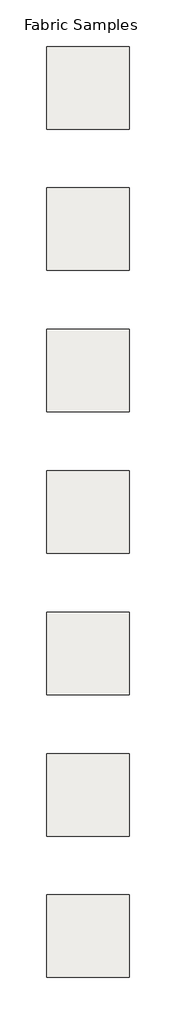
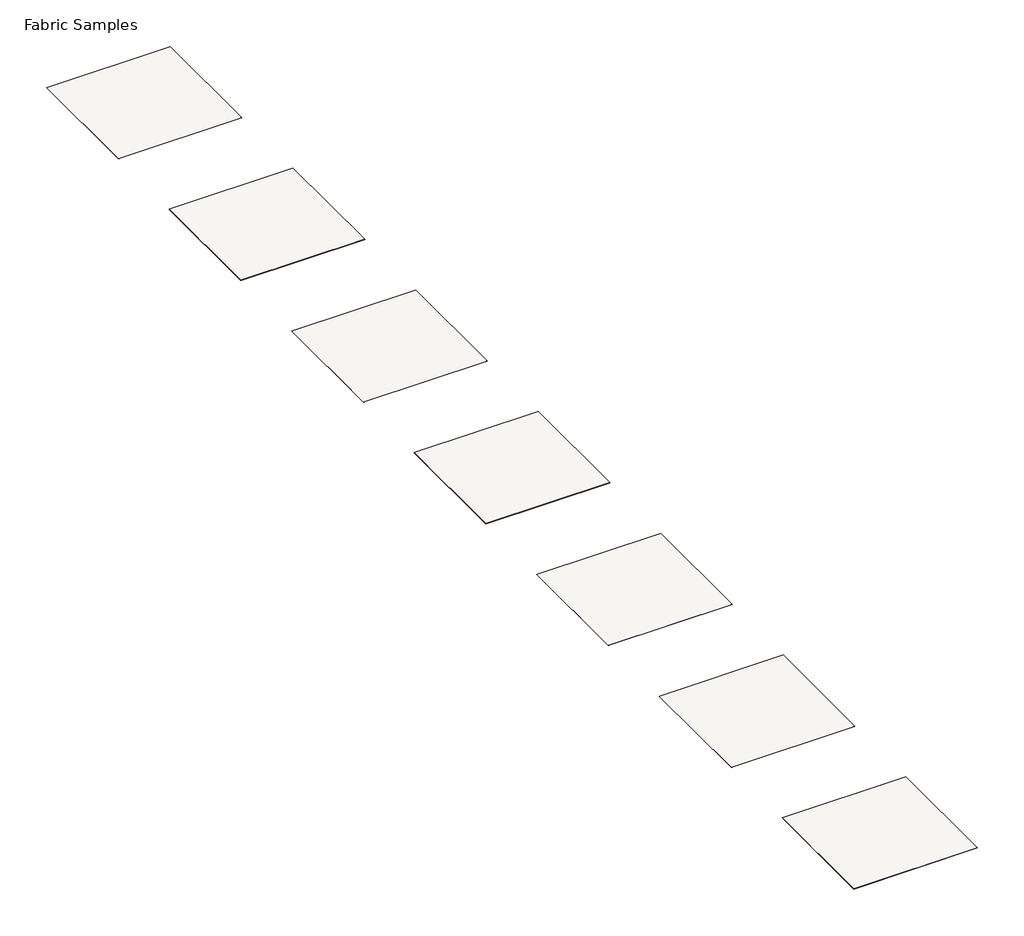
# One storey: 7 coverings.
"""IFC4 building model written with IfcOpenShell, lengths in millimetres."""

from ifc_helpers import new_model, si_unit, frame, origin, place, context, project, spatial, polyline, outline, extrude, element, save

model = new_model("IFC4")

# Units and contexts
model_context = context("Model", 3, world=origin())
ifc_project = project(units=[si_unit("LENGTHUNIT", "METRE", prefix="MILLI")], contexts=[model_context])

# Site, building, storey
site = spatial("IfcSite", under=ifc_project)
building = spatial("IfcBuilding", under=site)
storey = spatial("IfcBuildingStorey", under=building, Name="Fabric Samples", Elevation=0.0)

# Coverings
placement = place(None, origin())
element("IfcCovering", 1, ObjectType="CamiraFabrics_TxtlRllCvrngs_Kork_Aroma_WIN01", at=placement, inside=storey, context=model_context, shape_type="SweptSolid", body=[
    extrude(outline(polyline([(515.5073044, 1029.1514654), (515.5073044, -370.8485346), (-884.4926956, -370.8485346), (-884.4926956, 1029.1514654), (515.5073044, 1029.1514654)])), frame((0.0, 0.0, -2.0), z_axis=(0.0, 0.0, 1.0), x_axis=(1.0, 0.0, 0.0)), (0.0, 0.0, 1.0), 2.0),
])
element("IfcCovering", 2, ObjectType="CamiraFabrics_TxtlRllCvrngs_Kork_Notes_WIN02", at=placement, inside=storey, context=model_context, shape_type="SweptSolid", body=[
    extrude(outline(polyline([(515.5073044, -1370.8485346), (515.5073044, -2770.8485346), (-884.4926956, -2770.8485346), (-884.4926956, -1370.8485346), (515.5073044, -1370.8485346)])), frame((0.0, 0.0, -2.0), z_axis=(0.0, 0.0, 1.0), x_axis=(1.0, 0.0, 0.0)), (0.0, 0.0, 1.0), 2.0),
])
element("IfcCovering", 3, ObjectType="CamiraFabrics_TxtlRllCvrngs_Kork_Crisp_WIN03", at=placement, inside=storey, context=model_context, shape_type="SweptSolid", body=[
    extrude(outline(polyline([(515.5073044, -3770.8485346), (515.5073044, -5170.8485346), (-884.4926956, -5170.8485346), (-884.4926956, -3770.8485346), (515.5073044, -3770.8485346)])), frame((0.0, 0.0, -2.0), z_axis=(0.0, 0.0, 1.0), x_axis=(1.0, 0.0, 0.0)), (0.0, 0.0, 1.0), 2.0),
])
element("IfcCovering", 4, ObjectType="CamiraFabrics_TxtlRllCvrngs_Kork_Smokey_WIN04", at=placement, inside=storey, context=model_context, shape_type="SweptSolid", body=[
    extrude(outline(polyline([(515.5073044, -6170.8485346), (515.5073044, -7570.8485346), (-884.4926956, -7570.8485346), (-884.4926956, -6170.8485346), (515.5073044, -6170.8485346)])), frame((0.0, 0.0, -2.0), z_axis=(0.0, 0.0, 1.0), x_axis=(1.0, 0.0, 0.0)), (0.0, 0.0, 1.0), 2.0),
])
element("IfcCovering", 5, ObjectType="CamiraFabrics_TxtlRllCvrngs_Kork_Opulent_WIN05", at=placement, inside=storey, context=model_context, shape_type="SweptSolid", body=[
    extrude(outline(polyline([(515.5073044, -8570.8485346), (515.5073044, -9970.8485346), (-884.4926956, -9970.8485346), (-884.4926956, -8570.8485346), (515.5073044, -8570.8485346)])), frame((0.0, 0.0, -2.0), z_axis=(0.0, 0.0, 1.0), x_axis=(1.0, 0.0, 0.0)), (0.0, 0.0, 1.0), 2.0),
])
element("IfcCovering", 6, ObjectType="CamiraFabrics_TxtlRllCvrngs_Kork_Rich_WIN06", at=placement, inside=storey, context=model_context, shape_type="SweptSolid", body=[
    extrude(outline(polyline([(515.5073044, -10970.8485346), (515.5073044, -12370.8485346), (-884.4926956, -12370.8485346), (-884.4926956, -10970.8485346), (515.5073044, -10970.8485346)])), frame((0.0, 0.0, -2.0), z_axis=(0.0, 0.0, 1.0), x_axis=(1.0, 0.0, 0.0)), (0.0, 0.0, 1.0), 2.0),
])
element("IfcCovering", 7, ObjectType="CamiraFabrics_TxtlRllCvrngs_Kork_Tannin_WIN07", at=placement, inside=storey, context=model_context, shape_type="SweptSolid", body=[
    extrude(outline(polyline([(515.5073044, -13370.8485346), (515.5073044, -14770.8485346), (-884.4926956, -14770.8485346), (-884.4926956, -13370.8485346), (515.5073044, -13370.8485346)])), frame((0.0, 0.0, -2.0), z_axis=(0.0, 0.0, 1.0), x_axis=(1.0, 0.0, 0.0)), (0.0, 0.0, 1.0), 2.0),
])

save(model, "model.ifc")
